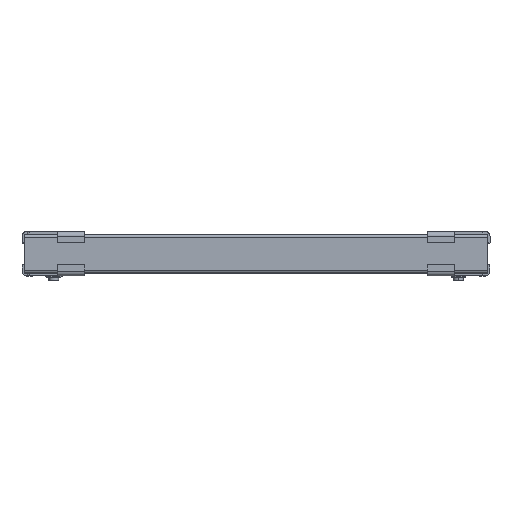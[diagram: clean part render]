
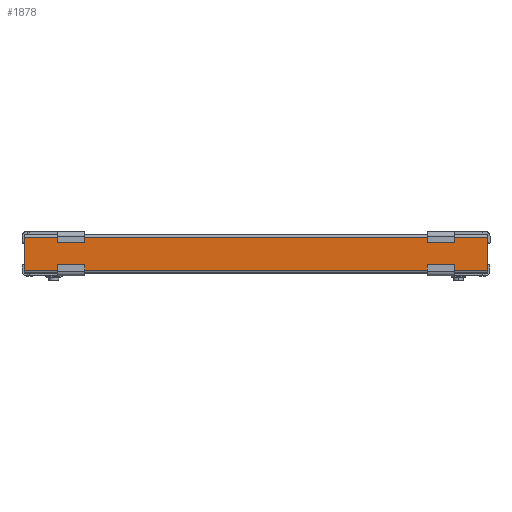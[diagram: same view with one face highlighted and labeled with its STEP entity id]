
A CAD part, top view. The second image highlights one B-rep face of the part: STEP entity #1878.
In plain terms, the highlighted planar face has unit normal (0, 0, 1).
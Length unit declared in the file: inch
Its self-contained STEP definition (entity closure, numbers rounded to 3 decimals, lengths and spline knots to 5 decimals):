
#128 = ORIENTED_EDGE ( 'NONE', *, *, #3206, .F. ) ;
#129 = ORIENTED_EDGE ( 'NONE', *, *, #3030, .T. ) ;
#141 = ORIENTED_EDGE ( 'NONE', *, *, #3306, .T. ) ;
#164 = ORIENTED_EDGE ( 'NONE', *, *, #2977, .T. ) ;
#211 = EDGE_LOOP ( 'NONE', ( #164, #129, #128, #141 ) ) ;
#687 = DIRECTION ( 'NONE',  ( -1., 0., 0. ) ) ;
#688 = CARTESIAN_POINT ( 'NONE',  ( 18., 1.4, 0. ) ) ;
#969 = DIRECTION ( 'NONE',  ( 0., -1., 0. ) ) ;
#974 = CARTESIAN_POINT ( 'NONE',  ( 0., 0., 0. ) ) ;
#1002 = DIRECTION ( 'NONE',  ( 0., -1., 0. ) ) ;
#1003 = CARTESIAN_POINT ( 'NONE',  ( 18., 0., 0. ) ) ;
#1253 = DIRECTION ( 'NONE',  ( 1., 0., 0. ) ) ;
#1256 = CARTESIAN_POINT ( 'NONE',  ( 18., 0.1, 0. ) ) ;
#1262 = CARTESIAN_POINT ( 'NONE',  ( 18., 0.1, 0. ) ) ;
#1320 = CARTESIAN_POINT ( 'NONE',  ( 18., 1.4, 0. ) ) ;
#1704 = VECTOR ( 'NONE', #687, 39.37008 ) ;
#1811 = LINE ( 'NONE', #688, #1704 ) ;
#1878 = ADVANCED_FACE ( 'NONE', ( #4207 ), #2798, .F. ) ;
#1953 = CARTESIAN_POINT ( 'NONE',  ( 0., 0.1, 0. ) ) ;
#2032 = CARTESIAN_POINT ( 'NONE',  ( 0., 1.4, 0. ) ) ;
#2577 = VERTEX_POINT ( 'NONE', #2032 ) ;
#2584 = VERTEX_POINT ( 'NONE', #1953 ) ;
#2624 = VERTEX_POINT ( 'NONE', #1320 ) ;
#2711 = VERTEX_POINT ( 'NONE', #1262 ) ;
#2794 = CARTESIAN_POINT ( 'NONE',  ( 18., 0., 0. ) ) ;
#2798 = PLANE ( 'NONE',  #3413 ) ;
#2801 = DIRECTION ( 'NONE',  ( 0., 0., -1. ) ) ;
#2802 = DIRECTION ( 'NONE',  ( -1., 0., 0. ) ) ;
#2977 = EDGE_CURVE ( 'NONE', #2577, #2584, #4064, .T. ) ;
#3030 = EDGE_CURVE ( 'NONE', #2584, #2711, #3975, .T. ) ;
#3206 = EDGE_CURVE ( 'NONE', #2624, #2711, #3882, .T. ) ;
#3306 = EDGE_CURVE ( 'NONE', #2624, #2577, #1811, .T. ) ;
#3413 = AXIS2_PLACEMENT_3D ( 'NONE', #2794, #2801, #2802 ) ;
#3881 = VECTOR ( 'NONE', #1002, 39.37008 ) ;
#3882 = LINE ( 'NONE', #1003, #3881 ) ;
#3971 = VECTOR ( 'NONE', #1253, 39.37008 ) ;
#3975 = LINE ( 'NONE', #1256, #3971 ) ;
#4064 = LINE ( 'NONE', #974, #4065 ) ;
#4065 = VECTOR ( 'NONE', #969, 39.37008 ) ;
#4207 = FACE_OUTER_BOUND ( 'NONE', #211, .T. ) ;
